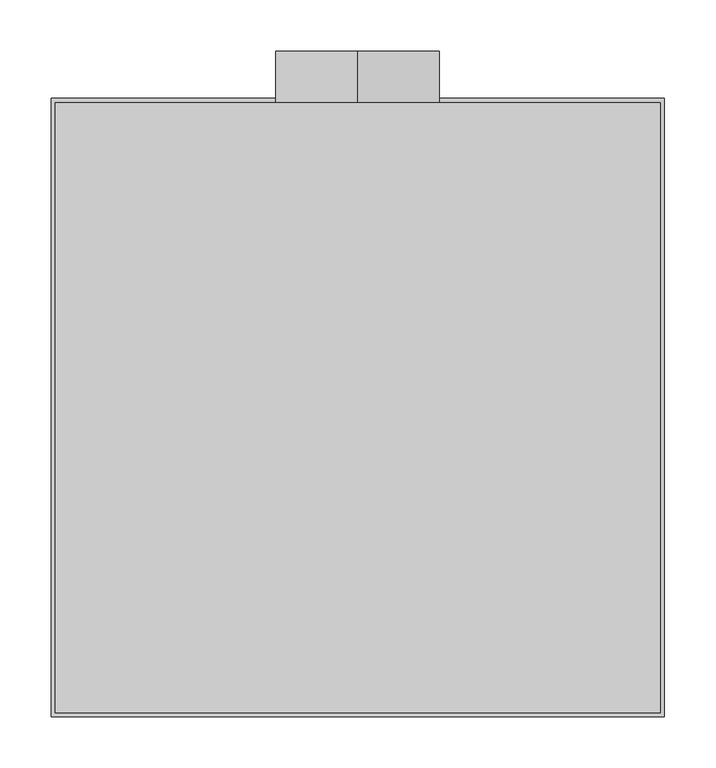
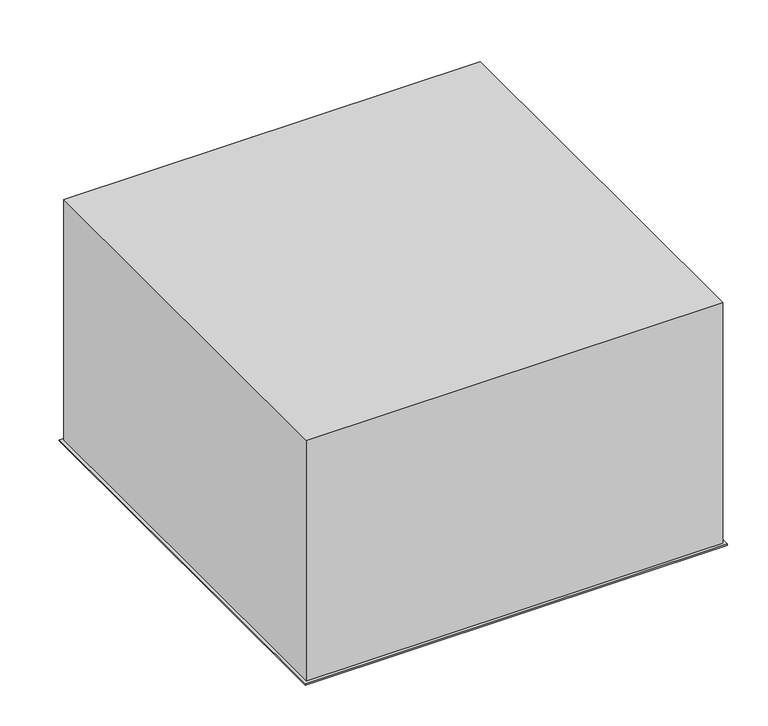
"""IFC4 building model written with IfcOpenShell, lengths in millimetres: air terminal geometry, EOL - plafonnier : EOL-P1-160-600x600."""

import ifcopenshell
import ifcopenshell.guid

model = None  # the IFC model being written
_history = None  # IfcOwnerHistory: only IFC2X3 demands one
_inside = {}  # id of a spatial element -> (the spatial element, [elements in it])
_under = {}  # id of a project, library or spatial element -> (it, [spatial elements below it])
_declared = {}  # id of a project -> (the project, [libraries it declares])
_typed = {}  # id of a type object -> (the type object, [elements of that type])
_made_of = {}  # id of a material, layer set ... -> (it, [elements and type objects made of it])


def new_model(schema):
    """Start an empty IFC model of exactly this schema.

    Asked for "IFC4X3", IfcOpenShell would pick the latest addendum, in which some entities
    have other attributes; the version numbers below select the first issue.
    IFC2X3 requires an IfcOwnerHistory on every rooted entity: one is made here for all.
    """
    global model, _history
    if schema == "IFC4X3":
        model = ifcopenshell.file(schema_version=(4, 3, 0, 0))
    else:
        model = ifcopenshell.file(schema=schema)
    _inside.clear()
    _under.clear()
    _declared.clear()
    _typed.clear()
    _made_of.clear()
    _history = None
    if model.schema == "IFC2X3":
        org = make("IfcOrganization", Name="unknown")
        user = make(
            "IfcPersonAndOrganization",
            ThePerson=make("IfcPerson", FamilyName="unknown"),
            TheOrganization=org,
        )
        app = make(
            "IfcApplication",
            ApplicationDeveloper=org,
            Version="unknown",
            ApplicationFullName="unknown",
            ApplicationIdentifier="unknown",
        )
        _history = make(
            "IfcOwnerHistory",
            OwningUser=user,
            OwningApplication=app,
            ChangeAction="ADDED",
            CreationDate=0,
        )
    return model


def make(cls, **values):
    """One entity of the class cls with the attributes given. An attribute that is None is left unset."""
    return model.create_entity(
        cls, **{name: value for name, value in values.items() if value is not None}
    )


def rooted(cls, **values):
    """An entity with a GlobalId (a new one), such as an element, a storey or a relation."""
    return make(cls, GlobalId=ifcopenshell.guid.new(), OwnerHistory=_history, **values)


def si_unit(unit_type, name, prefix=None):
    """IfcSIUnit, for example si_unit("LENGTHUNIT", "METRE", prefix="MILLI")."""
    return make("IfcSIUnit", UnitType=unit_type, Prefix=prefix, Name=name)


def assignment(units):
    """IfcUnitAssignment: the units of a project."""
    return None if units is None else make("IfcUnitAssignment", Units=units)


def point(xyz):
    """IfcCartesianPoint."""
    return None if xyz is None else make("IfcCartesianPoint", Coordinates=xyz)


def direction(xyz):
    """IfcDirection."""
    return None if xyz is None else make("IfcDirection", DirectionRatios=xyz)


def frame(location, z_axis=None, x_axis=None):
    """IfcAxis2Placement3D, a coordinate frame: its origin and axes. An axis left out is left unset."""
    return make(
        "IfcAxis2Placement3D",
        Location=point(location),
        Axis=direction(z_axis),
        RefDirection=direction(x_axis),
    )


def frame_2d(location, x_axis=None):
    """IfcAxis2Placement2D, a coordinate frame in the plane: its origin and x axis."""
    return make(
        "IfcAxis2Placement2D", Location=point(location), RefDirection=direction(x_axis)
    )


def origin():
    """The frame at (0, 0, 0) with its axes left unset."""
    return frame((0.0, 0.0, 0.0))


def place(relative_to, where):
    """IfcLocalPlacement: puts the frame where relative to a parent placement (None: the world)."""
    return make(
        "IfcLocalPlacement", PlacementRelTo=relative_to, RelativePlacement=where
    )


def context(
    kind, dimensions, precision=None, world=None, true_north=None, identifier=None
):
    """IfcGeometricRepresentationContext, for example the 3D "Model" context."""
    return make(
        "IfcGeometricRepresentationContext",
        ContextIdentifier=identifier,
        ContextType=kind,
        CoordinateSpaceDimension=dimensions,
        Precision=precision,
        WorldCoordinateSystem=world,
        TrueNorth=true_north,
    )


def project(units=None, contexts=None):
    """IfcProject with its units and contexts."""
    return rooted(
        "IfcProject",
        Name="project",
        RepresentationContexts=contexts,
        UnitsInContext=assignment(units),
    )


def spatial(cls, under=None, at=None, **own):
    """A site, building, storey or space (cls), placed at a placement, below another one or the project."""
    s = rooted(cls, ObjectPlacement=at, **own)
    if under is not None:
        _under.setdefault(under.id(), (under, []))[1].append(s)
    return s


def polyline(points):
    """IfcPolyline through the points."""
    return make("IfcPolyline", Points=[point(p) for p in points])


def circle_curve(where, radius):
    """IfcCircle in the frame where."""
    return make("IfcCircle", Position=where, Radius=radius)


def trimmed(basis, trim1, trim2, sense, master):
    """IfcTrimmedCurve: the piece of a basis curve between two trims."""
    return make(
        "IfcTrimmedCurve",
        BasisCurve=basis,
        Trim1=trim1,
        Trim2=trim2,
        SenseAgreement=sense,
        MasterRepresentation=master,
    )


def segment(curve, same_sense, transition):
    """IfcCompositeCurveSegment."""
    return make(
        "IfcCompositeCurveSegment",
        Transition=transition,
        SameSense=same_sense,
        ParentCurve=curve,
    )


def composite_curve(segments, self_intersect=None):
    """IfcCompositeCurve: segments joined end to end."""
    return make("IfcCompositeCurve", Segments=segments, SelfIntersect=self_intersect)


def outline(outer, holes=None, kind="AREA"):
    """IfcArbitraryClosedProfileDef: a profile drawn as a closed curve; with holes, ...WithVoids."""
    if holes is None:
        return make("IfcArbitraryClosedProfileDef", ProfileType=kind, OuterCurve=outer)
    return make(
        "IfcArbitraryProfileDefWithVoids",
        ProfileType=kind,
        OuterCurve=outer,
        InnerCurves=holes,
    )


def extrude(swept, where, along, depth):
    """IfcExtrudedAreaSolid: the profile swept, set in the frame where, extruded along a direction by depth."""
    return make(
        "IfcExtrudedAreaSolid",
        SweptArea=swept,
        Position=where,
        ExtrudedDirection=direction(along),
        Depth=depth,
    )


def shape(context_of_items, identifier, shape_type, items):
    """IfcShapeRepresentation: the items that make up one representation, for example the "Body"."""
    return make(
        "IfcShapeRepresentation",
        ContextOfItems=context_of_items,
        RepresentationIdentifier=identifier,
        RepresentationType=shape_type,
        Items=items,
    )


def source(mapping_origin, context_of_items, identifier, shape_type, items):
    """IfcRepresentationMap: a shape defined once, which mapped items show again and again."""
    return make(
        "IfcRepresentationMap",
        MappingOrigin=mapping_origin,
        MappedRepresentation=shape(context_of_items, identifier, shape_type, items),
    )


def transform(
    local_origin,
    x_axis=None,
    y_axis=None,
    z_axis=None,
    scale=None,
    scale2=None,
    scale3=None,
    uniform=True,
):
    """IfcCartesianTransformationOperator3D, or its non-uniform kind. x_axis, y_axis, z_axis: its Axis1, 2, 3."""
    if uniform:
        return make(
            "IfcCartesianTransformationOperator3D",
            Axis1=direction(x_axis),
            Axis2=direction(y_axis),
            LocalOrigin=point(local_origin),
            Scale=scale,
            Axis3=direction(z_axis),
        )
    return make(
        "IfcCartesianTransformationOperator3DnonUniform",
        Axis1=direction(x_axis),
        Axis2=direction(y_axis),
        LocalOrigin=point(local_origin),
        Scale=scale,
        Axis3=direction(z_axis),
        Scale2=scale2,
        Scale3=scale3,
    )


def mapped(mapping_source, mapping_target):
    """IfcMappedItem: shows the shape of a source again, moved by a transform."""
    return make(
        "IfcMappedItem", MappingSource=mapping_source, MappingTarget=mapping_target
    )


def made_of(thing, what):
    """Note that an element or type object is made of a material, layer set ...; save() writes the relation."""
    if what is not None:
        _made_of.setdefault(what.id(), (what, []))[1].append(thing)
    return thing


def element(
    cls,
    number,
    at=None,
    inside=None,
    cuts=None,
    type_object=None,
    material=None,
    context=None,
    identifier="Body",
    shape_type=None,
    held_by="IfcProductDefinitionShape",
    body=None,
    shapes=None,
    **own,
):
    """One element of the class cls, such as IfcWall. Its Tag is "e" and its number.

    at: its placement. inside: the storey or other place that contains it. cuts: it is an
    opening in that element (IfcRelVoidsElement). A single representation is given by context,
    identifier, shape_type and body (its items); several are given by shapes. held_by: the class
    of the entity that holds the representations. save() writes the other relations.
    """
    e = rooted(cls, Tag="e%d" % number, ObjectPlacement=at, **own)
    if body is not None:
        shapes = [shape(context, identifier, shape_type, body)]
    if shapes is not None:
        e.Representation = make(held_by, Representations=shapes)
    if inside is not None:
        _inside.setdefault(inside.id(), (inside, []))[1].append(e)
    if cuts is not None:
        rooted(
            "IfcRelVoidsElement", RelatingBuildingElement=cuts, RelatedOpeningElement=e
        )
    if type_object is not None:
        _typed.setdefault(type_object.id(), (type_object, []))[1].append(e)
    return made_of(e, material)


def aggregate(whole, parts):
    """IfcRelAggregates: a whole, such as a stair, and the parts it consists of."""
    return rooted("IfcRelAggregates", RelatingObject=whole, RelatedObjects=parts)


def save(model, path):
    """Write the relations noted so far, then the file.

    IfcRelAggregates (storeys below a building ...), IfcRelContainedInSpatialStructure (elements
    in a storey), IfcRelDefinesByType, IfcRelAssociatesMaterial and IfcRelDeclares: one each for
    every whole, place, type object, material and project.
    """
    for whole, parts in _under.values():
        aggregate(whole, parts)
    for where, things in _inside.values():
        rooted(
            "IfcRelContainedInSpatialStructure",
            RelatedElements=things,
            RelatingStructure=where,
        )
    for kind, things in _typed.values():
        rooted("IfcRelDefinesByType", RelatedObjects=things, RelatingType=kind)
    for what, things in _made_of.values():
        rooted("IfcRelAssociatesMaterial", RelatedObjects=things, RelatingMaterial=what)
    for by, libraries in _declared.values():
        rooted("IfcRelDeclares", RelatingContext=by, RelatedDefinitions=libraries)
    model.write(path)


def plane_surface(at):
    """IfcPlane: the flat surface through the origin of the frame at, square to its z axis."""
    return make("IfcPlane", Position=at)


def revolved_surface(curve, axis_point, axis_direction):
    """IfcSurfaceOfRevolution: the curve turned about the line through axis_point along axis_direction."""
    return make(
        "IfcSurfaceOfRevolution",
        SweptCurve=make("IfcArbitraryOpenProfileDef", ProfileType="CURVE", Curve=curve),
        AxisPosition=make("IfcAxis1Placement", Location=point(axis_point), Axis=direction(axis_direction)),
    )


def advanced_brep(points, edges, surfaces, faces):
    """IfcAdvancedBrep: a solid bounded by faces that lie on surfaces and meet in shared edges.

    An edge is (start, end): straight between two places in points (the first is 0);
    or (start, end, curve); or (start, end, curve, False) where it runs against its curve.
    A face is (place in surfaces, loops), or (place, loops, False) where it looks against
    its surface's normal. A loop lists edges by number (the first is 1), with a minus sign
    where the edge is run from its end to its start. The first loop is the outer one.
    """
    corners = [point(p) for p in points]
    vertices = [make("IfcVertexPoint", VertexGeometry=c) for c in corners]
    made = []
    for start, end, *more in edges:
        made.append(
            make(
                "IfcEdgeCurve",
                EdgeStart=vertices[start],
                EdgeEnd=vertices[end],
                EdgeGeometry=more[0] if more else make("IfcPolyline", Points=[corners[start], corners[end]]),
                SameSense=more[1] if len(more) > 1 else True,
            )
        )
    hull = []
    for where, loops, *sense in faces:
        bounds = []
        for j, loop in enumerate(loops):
            ring = [make("IfcOrientedEdge", EdgeElement=made[abs(k) - 1], Orientation=k > 0) for k in loop]
            bounds.append(
                make(
                    "IfcFaceOuterBound" if j == 0 else "IfcFaceBound",
                    Bound=make("IfcEdgeLoop", EdgeList=ring),
                    Orientation=True,
                )
            )
        hull.append(make("IfcAdvancedFace", Bounds=bounds, FaceSurface=surfaces[where], SameSense=sense[0] if sense else True))
    return make("IfcAdvancedBrep", Outer=make("IfcClosedShell", CfsFaces=hull))


def air_terminal_bc984ca1(model_context):
    return source(origin(), model_context, "Body", "SolidModel", [
        extrude(outline(composite_curve([segment(polyline([(546.8125856, 1.0), (546.8125856, 2.0025269)]), True, "CONTINUOUS"), segment(trimmed(circle_curve(frame_2d((544.7125856, 31.0266548)), 29.1), [point((546.8125856, 2.0025269))], [point((573.5, 26.77286))], True, "CARTESIAN"), True, "CONTINUOUS"), segment(polyline([(573.5, 26.77286), (573.5, 35.0), (574.5, 35.0), (574.5, 26.7)]), True, "CONTINUOUS"), segment(trimmed(circle_curve(frame_2d((544.7125856, 31.0266548)), 30.1), [point((574.5, 26.7))], [point((546.8125856, 1.0))], False, "CARTESIAN"), True, "CONTINUOUS")], self_intersect=False)), frame((-286.3125856, 0.0, 0.0), z_axis=(1.0, 0.0, 0.0), x_axis=(0.0, 1.0, 0.0)), (0.0, 0.0, 1.0), 572.6251712),
        extrude(outline(composite_curve([segment(polyline([(519.8125856, 1.0), (519.8125856, 2.0025269)]), True, "CONTINUOUS"), segment(trimmed(circle_curve(frame_2d((517.7125856, 31.0266548)), 29.1), [point((519.8125856, 2.0025269))], [point((546.5, 26.77286))], True, "CARTESIAN"), True, "CONTINUOUS"), segment(polyline([(546.5, 26.77286), (546.5, 35.0), (547.5, 35.0), (547.5, 26.7)]), True, "CONTINUOUS"), segment(trimmed(circle_curve(frame_2d((517.7125856, 31.0266548)), 30.1), [point((547.5, 26.7))], [point((519.8125856, 1.0))], False, "CARTESIAN"), True, "CONTINUOUS")], self_intersect=False)), frame((-286.3125856, 0.0, 0.0), z_axis=(1.0, 0.0, 0.0), x_axis=(0.0, 1.0, 0.0)), (0.0, 0.0, 1.0), 572.6251712),
        extrude(outline(composite_curve([segment(polyline([(492.8125856, 1.0), (492.8125856, 2.0025269)]), True, "CONTINUOUS"), segment(trimmed(circle_curve(frame_2d((490.7125856, 31.0266548)), 29.1), [point((492.8125856, 2.0025269))], [point((519.5, 26.77286))], True, "CARTESIAN"), True, "CONTINUOUS"), segment(polyline([(519.5, 26.77286), (519.5, 35.0), (520.5, 35.0), (520.5, 26.7)]), True, "CONTINUOUS"), segment(trimmed(circle_curve(frame_2d((490.7125856, 31.0266548)), 30.1), [point((520.5, 26.7))], [point((492.8125856, 1.0))], False, "CARTESIAN"), True, "CONTINUOUS")], self_intersect=False)), frame((-286.3125856, 0.0, 0.0), z_axis=(1.0, 0.0, 0.0), x_axis=(0.0, 1.0, 0.0)), (0.0, 0.0, 1.0), 572.6251712),
        extrude(outline(composite_curve([segment(polyline([(465.8125856, 1.0), (465.8125856, 2.0025269)]), True, "CONTINUOUS"), segment(trimmed(circle_curve(frame_2d((463.7125856, 31.0266548)), 29.1), [point((465.8125856, 2.0025269))], [point((492.5, 26.77286))], True, "CARTESIAN"), True, "CONTINUOUS"), segment(polyline([(492.5, 26.77286), (492.5, 35.0), (493.5, 35.0), (493.5, 26.7)]), True, "CONTINUOUS"), segment(trimmed(circle_curve(frame_2d((463.7125856, 31.0266548)), 30.1), [point((493.5, 26.7))], [point((465.8125856, 1.0))], False, "CARTESIAN"), True, "CONTINUOUS")], self_intersect=False)), frame((-286.3125856, 0.0, 0.0), z_axis=(1.0, 0.0, 0.0), x_axis=(0.0, 1.0, 0.0)), (0.0, 0.0, 1.0), 572.6251712),
        extrude(outline(composite_curve([segment(polyline([(438.8125856, 1.0), (438.8125856, 2.0025269)]), True, "CONTINUOUS"), segment(trimmed(circle_curve(frame_2d((436.7125856, 31.0266548)), 29.1), [point((438.8125856, 2.0025269))], [point((465.5, 26.77286))], True, "CARTESIAN"), True, "CONTINUOUS"), segment(polyline([(465.5, 26.77286), (465.5, 35.0), (466.5, 35.0), (466.5, 26.7)]), True, "CONTINUOUS"), segment(trimmed(circle_curve(frame_2d((436.7125856, 31.0266548)), 30.1), [point((466.5, 26.7))], [point((438.8125856, 1.0))], False, "CARTESIAN"), True, "CONTINUOUS")], self_intersect=False)), frame((-286.3125856, 0.0, 0.0), z_axis=(1.0, 0.0, 0.0), x_axis=(0.0, 1.0, 0.0)), (0.0, 0.0, 1.0), 572.6251712),
        extrude(outline(composite_curve([segment(polyline([(411.8125856, 1.0), (411.8125856, 2.0025269)]), True, "CONTINUOUS"), segment(trimmed(circle_curve(frame_2d((409.7125856, 31.0266548)), 29.1), [point((411.8125856, 2.0025269))], [point((438.5, 26.77286))], True, "CARTESIAN"), True, "CONTINUOUS"), segment(polyline([(438.5, 26.77286), (438.5, 35.0), (439.5, 35.0), (439.5, 26.7)]), True, "CONTINUOUS"), segment(trimmed(circle_curve(frame_2d((409.7125856, 31.0266548)), 30.1), [point((439.5, 26.7))], [point((411.8125856, 1.0))], False, "CARTESIAN"), True, "CONTINUOUS")], self_intersect=False)), frame((-286.3125856, 0.0, 0.0), z_axis=(1.0, 0.0, 0.0), x_axis=(0.0, 1.0, 0.0)), (0.0, 0.0, 1.0), 572.6251712),
        extrude(outline(composite_curve([segment(polyline([(384.8125856, 1.0), (384.8125856, 2.0025269)]), True, "CONTINUOUS"), segment(trimmed(circle_curve(frame_2d((382.7125856, 31.0266548)), 29.1), [point((384.8125856, 2.0025269))], [point((411.5, 26.77286))], True, "CARTESIAN"), True, "CONTINUOUS"), segment(polyline([(411.5, 26.77286), (411.5, 35.0), (412.5, 35.0), (412.5, 26.7)]), True, "CONTINUOUS"), segment(trimmed(circle_curve(frame_2d((382.7125856, 31.0266548)), 30.1), [point((412.5, 26.7))], [point((384.8125856, 1.0))], False, "CARTESIAN"), True, "CONTINUOUS")], self_intersect=False)), frame((-286.3125856, 0.0, 0.0), z_axis=(1.0, 0.0, 0.0), x_axis=(0.0, 1.0, 0.0)), (0.0, 0.0, 1.0), 572.6251712),
        extrude(outline(composite_curve([segment(polyline([(357.8125856, 1.0), (357.8125856, 2.0025269)]), True, "CONTINUOUS"), segment(trimmed(circle_curve(frame_2d((355.7125856, 31.0266548)), 29.1), [point((357.8125856, 2.0025269))], [point((384.5, 26.77286))], True, "CARTESIAN"), True, "CONTINUOUS"), segment(polyline([(384.5, 26.77286), (384.5, 35.0), (385.5, 35.0), (385.5, 26.7)]), True, "CONTINUOUS"), segment(trimmed(circle_curve(frame_2d((355.7125856, 31.0266548)), 30.1), [point((385.5, 26.7))], [point((357.8125856, 1.0))], False, "CARTESIAN"), True, "CONTINUOUS")], self_intersect=False)), frame((-286.3125856, 0.0, 0.0), z_axis=(1.0, 0.0, 0.0), x_axis=(0.0, 1.0, 0.0)), (0.0, 0.0, 1.0), 572.6251712),
        extrude(outline(composite_curve([segment(polyline([(330.8125856, 1.0), (330.8125856, 2.0025269)]), True, "CONTINUOUS"), segment(trimmed(circle_curve(frame_2d((328.7125856, 31.0266548)), 29.1), [point((330.8125856, 2.0025269))], [point((357.5, 26.77286))], True, "CARTESIAN"), True, "CONTINUOUS"), segment(polyline([(357.5, 26.77286), (357.5, 35.0), (358.5, 35.0), (358.5, 26.7)]), True, "CONTINUOUS"), segment(trimmed(circle_curve(frame_2d((328.7125856, 31.0266548)), 30.1), [point((358.5, 26.7))], [point((330.8125856, 1.0))], False, "CARTESIAN"), True, "CONTINUOUS")], self_intersect=False)), frame((-286.3125856, 0.0, 0.0), z_axis=(1.0, 0.0, 0.0), x_axis=(0.0, 1.0, 0.0)), (0.0, 0.0, 1.0), 572.6251712),
        extrude(outline(composite_curve([segment(polyline([(303.8125856, 1.0), (303.8125856, 2.0025269)]), True, "CONTINUOUS"), segment(trimmed(circle_curve(frame_2d((301.7125856, 31.0266548)), 29.1), [point((303.8125856, 2.0025269))], [point((330.5, 26.77286))], True, "CARTESIAN"), True, "CONTINUOUS"), segment(polyline([(330.5, 26.77286), (330.5, 35.0), (331.5, 35.0), (331.5, 26.7)]), True, "CONTINUOUS"), segment(trimmed(circle_curve(frame_2d((301.7125856, 31.0266548)), 30.1), [point((331.5, 26.7))], [point((303.8125856, 1.0))], False, "CARTESIAN"), True, "CONTINUOUS")], self_intersect=False)), frame((-286.3125856, 0.0, 0.0), z_axis=(1.0, 0.0, 0.0), x_axis=(0.0, 1.0, 0.0)), (0.0, 0.0, 1.0), 572.6251712),
        extrude(outline(composite_curve([segment(polyline([(276.8125856, 1.0), (276.8125856, 2.0025269)]), True, "CONTINUOUS"), segment(trimmed(circle_curve(frame_2d((274.7125856, 31.0266548)), 29.1), [point((276.8125856, 2.0025269))], [point((303.5, 26.77286))], True, "CARTESIAN"), True, "CONTINUOUS"), segment(polyline([(303.5, 26.77286), (303.5, 35.0), (304.5, 35.0), (304.5, 26.7)]), True, "CONTINUOUS"), segment(trimmed(circle_curve(frame_2d((274.7125856, 31.0266548)), 30.1), [point((304.5, 26.7))], [point((276.8125856, 1.0))], False, "CARTESIAN"), True, "CONTINUOUS")], self_intersect=False)), frame((-286.3125856, 0.0, 0.0), z_axis=(1.0, 0.0, 0.0), x_axis=(0.0, 1.0, 0.0)), (0.0, 0.0, 1.0), 572.6251712),
        extrude(outline(composite_curve([segment(polyline([(249.8125856, 1.0), (249.8125856, 2.0025269)]), True, "CONTINUOUS"), segment(trimmed(circle_curve(frame_2d((247.7125856, 31.0266548)), 29.1), [point((249.8125856, 2.0025269))], [point((276.5, 26.77286))], True, "CARTESIAN"), True, "CONTINUOUS"), segment(polyline([(276.5, 26.77286), (276.5, 35.0), (277.5, 35.0), (277.5, 26.7)]), True, "CONTINUOUS"), segment(trimmed(circle_curve(frame_2d((247.7125856, 31.0266548)), 30.1), [point((277.5, 26.7))], [point((249.8125856, 1.0))], False, "CARTESIAN"), True, "CONTINUOUS")], self_intersect=False)), frame((-286.3125856, 0.0, 0.0), z_axis=(1.0, 0.0, 0.0), x_axis=(0.0, 1.0, 0.0)), (0.0, 0.0, 1.0), 572.6251712),
        extrude(outline(composite_curve([segment(polyline([(222.8125856, 1.0), (222.8125856, 2.0025269)]), True, "CONTINUOUS"), segment(trimmed(circle_curve(frame_2d((220.7125856, 31.0266548)), 29.1), [point((222.8125856, 2.0025269))], [point((249.5, 26.77286))], True, "CARTESIAN"), True, "CONTINUOUS"), segment(polyline([(249.5, 26.77286), (249.5, 35.0), (250.5, 35.0), (250.5, 26.7)]), True, "CONTINUOUS"), segment(trimmed(circle_curve(frame_2d((220.7125856, 31.0266548)), 30.1), [point((250.5, 26.7))], [point((222.8125856, 1.0))], False, "CARTESIAN"), True, "CONTINUOUS")], self_intersect=False)), frame((-286.3125856, 0.0, 0.0), z_axis=(1.0, 0.0, 0.0), x_axis=(0.0, 1.0, 0.0)), (0.0, 0.0, 1.0), 572.6251712),
        extrude(outline(composite_curve([segment(polyline([(195.8125856, 1.0), (195.8125856, 2.0025269)]), True, "CONTINUOUS"), segment(trimmed(circle_curve(frame_2d((193.7125856, 31.0266548)), 29.1), [point((195.8125856, 2.0025269))], [point((222.5, 26.77286))], True, "CARTESIAN"), True, "CONTINUOUS"), segment(polyline([(222.5, 26.77286), (222.5, 35.0), (223.5, 35.0), (223.5, 26.7)]), True, "CONTINUOUS"), segment(trimmed(circle_curve(frame_2d((193.7125856, 31.0266548)), 30.1), [point((223.5, 26.7))], [point((195.8125856, 1.0))], False, "CARTESIAN"), True, "CONTINUOUS")], self_intersect=False)), frame((-286.3125856, 0.0, 0.0), z_axis=(1.0, 0.0, 0.0), x_axis=(0.0, 1.0, 0.0)), (0.0, 0.0, 1.0), 572.6251712),
        extrude(outline(composite_curve([segment(polyline([(168.8125856, 1.0), (168.8125856, 2.0025269)]), True, "CONTINUOUS"), segment(trimmed(circle_curve(frame_2d((166.7125856, 31.0266548)), 29.1), [point((168.8125856, 2.0025269))], [point((195.5, 26.77286))], True, "CARTESIAN"), True, "CONTINUOUS"), segment(polyline([(195.5, 26.77286), (195.5, 35.0), (196.5, 35.0), (196.5, 26.7)]), True, "CONTINUOUS"), segment(trimmed(circle_curve(frame_2d((166.7125856, 31.0266548)), 30.1), [point((196.5, 26.7))], [point((168.8125856, 1.0))], False, "CARTESIAN"), True, "CONTINUOUS")], self_intersect=False)), frame((-286.3125856, 0.0, 0.0), z_axis=(1.0, 0.0, 0.0), x_axis=(0.0, 1.0, 0.0)), (0.0, 0.0, 1.0), 572.6251712),
        extrude(outline(composite_curve([segment(polyline([(141.8125856, 1.0), (141.8125856, 2.0025269)]), True, "CONTINUOUS"), segment(trimmed(circle_curve(frame_2d((139.7125856, 31.0266548)), 29.1), [point((141.8125856, 2.0025269))], [point((168.5, 26.77286))], True, "CARTESIAN"), True, "CONTINUOUS"), segment(polyline([(168.5, 26.77286), (168.5, 35.0), (169.5, 35.0), (169.5, 26.7)]), True, "CONTINUOUS"), segment(trimmed(circle_curve(frame_2d((139.7125856, 31.0266548)), 30.1), [point((169.5, 26.7))], [point((141.8125856, 1.0))], False, "CARTESIAN"), True, "CONTINUOUS")], self_intersect=False)), frame((-286.3125856, 0.0, 0.0), z_axis=(1.0, 0.0, 0.0), x_axis=(0.0, 1.0, 0.0)), (0.0, 0.0, 1.0), 572.6251712),
        extrude(outline(composite_curve([segment(polyline([(114.8125856, 1.0), (114.8125856, 2.0025269)]), True, "CONTINUOUS"), segment(trimmed(circle_curve(frame_2d((112.7125856, 31.0266548)), 29.1), [point((114.8125856, 2.0025269))], [point((141.5, 26.77286))], True, "CARTESIAN"), True, "CONTINUOUS"), segment(polyline([(141.5, 26.77286), (141.5, 35.0), (142.5, 35.0), (142.5, 26.7)]), True, "CONTINUOUS"), segment(trimmed(circle_curve(frame_2d((112.7125856, 31.0266548)), 30.1), [point((142.5, 26.7))], [point((114.8125856, 1.0))], False, "CARTESIAN"), True, "CONTINUOUS")], self_intersect=False)), frame((-286.3125856, 0.0, 0.0), z_axis=(1.0, 0.0, 0.0), x_axis=(0.0, 1.0, 0.0)), (0.0, 0.0, 1.0), 572.6251712),
        extrude(outline(composite_curve([segment(polyline([(87.8125856, 1.0), (87.8125856, 2.0025269)]), True, "CONTINUOUS"), segment(trimmed(circle_curve(frame_2d((85.7125856, 31.0266548)), 29.1), [point((87.8125856, 2.0025269))], [point((114.5, 26.77286))], True, "CARTESIAN"), True, "CONTINUOUS"), segment(polyline([(114.5, 26.77286), (114.5, 35.0), (115.5, 35.0), (115.5, 26.7)]), True, "CONTINUOUS"), segment(trimmed(circle_curve(frame_2d((85.7125856, 31.0266548)), 30.1), [point((115.5, 26.7))], [point((87.8125856, 1.0))], False, "CARTESIAN"), True, "CONTINUOUS")], self_intersect=False)), frame((-286.3125856, 0.0, 0.0), z_axis=(1.0, 0.0, 0.0), x_axis=(0.0, 1.0, 0.0)), (0.0, 0.0, 1.0), 572.6251712),
        extrude(outline(composite_curve([segment(polyline([(60.8125856, 1.0), (60.8125856, 2.0025269)]), True, "CONTINUOUS"), segment(trimmed(circle_curve(frame_2d((58.7125856, 31.0266548)), 29.1), [point((60.8125856, 2.0025269))], [point((87.5, 26.77286))], True, "CARTESIAN"), True, "CONTINUOUS"), segment(polyline([(87.5, 26.77286), (87.5, 35.0), (88.5, 35.0), (88.5, 26.7)]), True, "CONTINUOUS"), segment(trimmed(circle_curve(frame_2d((58.7125856, 31.0266548)), 30.1), [point((88.5, 26.7))], [point((60.8125856, 1.0))], False, "CARTESIAN"), True, "CONTINUOUS")], self_intersect=False)), frame((-286.3125856, 0.0, 0.0), z_axis=(1.0, 0.0, 0.0), x_axis=(0.0, 1.0, 0.0)), (0.0, 0.0, 1.0), 572.6251712),
        extrude(outline(composite_curve([segment(polyline([(33.8125856, 1.0), (33.8125856, 2.0025269)]), True, "CONTINUOUS"), segment(trimmed(circle_curve(frame_2d((31.7125856, 31.0266548)), 29.1), [point((33.8125856, 2.0025269))], [point((60.5, 26.77286))], True, "CARTESIAN"), True, "CONTINUOUS"), segment(polyline([(60.5, 26.77286), (60.5, 35.0), (61.5, 35.0), (61.5, 26.7)]), True, "CONTINUOUS"), segment(trimmed(circle_curve(frame_2d((31.7125856, 31.0266548)), 30.1), [point((61.5, 26.7))], [point((33.8125856, 1.0))], False, "CARTESIAN"), True, "CONTINUOUS")], self_intersect=False)), frame((-286.3125856, 0.0, 0.0), z_axis=(1.0, 0.0, 0.0), x_axis=(0.0, 1.0, 0.0)), (0.0, 0.0, 1.0), 572.6251712),
        extrude(outline(composite_curve([segment(polyline([(6.8125856, 1.0), (6.8125856, 2.0025269)]), True, "CONTINUOUS"), segment(trimmed(circle_curve(frame_2d((4.7125856, 31.0266548)), 29.1), [point((6.8125856, 2.0025269))], [point((33.5, 26.77286))], True, "CARTESIAN"), True, "CONTINUOUS"), segment(polyline([(33.5, 26.77286), (33.5, 35.0), (34.5, 35.0), (34.5, 26.7)]), True, "CONTINUOUS"), segment(trimmed(circle_curve(frame_2d((4.7125856, 31.0266548)), 30.1), [point((34.5, 26.7))], [point((6.8125856, 1.0))], False, "CARTESIAN"), True, "CONTINUOUS")], self_intersect=False)), frame((-286.3125856, 0.0, 0.0), z_axis=(1.0, 0.0, 0.0), x_axis=(0.0, 1.0, 0.0)), (0.0, 0.0, 1.0), 572.6251712),
        extrude(outline(polyline([(299.0, 594.0), (299.0, -9.0), (-299.0, -9.0), (-299.0, 594.0), (299.0, 594.0)]), holes=[polyline([(290.0, 585.0), (-290.0, 585.0), (-290.0, 0.0), (290.0, 0.0), (290.0, 585.0)])]), frame((0.0, 0.0, -2.0), z_axis=(0.0, 0.0, 1.0), x_axis=(1.0, 0.0, 0.0)), (0.0, 0.0, 1.0), 2.0),
        extrude(outline(composite_curve([segment(trimmed(circle_curve(frame_2d((241.0, 0.0)), 80.0), [point((161.0, 0.0))], [point((321.0, 0.0))], False, "CARTESIAN"), True, "CONTINUOUS"), segment(trimmed(circle_curve(frame_2d((241.0, 0.0)), 80.0), [point((321.0, 0.0))], [point((161.0, 0.0))], False, "CARTESIAN"), True, "CONTINUOUS")], self_intersect=False), holes=[composite_curve([segment(trimmed(circle_curve(frame_2d((241.0, 0.0)), 79.0), [point((241.0, 79.0))], [point((241.0, -79.0))], True, "CARTESIAN"), True, "CONTINUOUS"), segment(trimmed(circle_curve(frame_2d((241.0, 0.0)), 79.0), [point((241.0, -79.0))], [point((241.0, 79.0))], True, "CARTESIAN"), True, "CONTINUOUS")], self_intersect=False)]), frame((0.0, 590.0, 0.0), z_axis=(0.0, 1.0, 0.0), x_axis=(0.0, 0.0, 1.0)), (0.0, 0.0, 1.0), 50.0),
        advanced_brep(
        [(295.0, 590.0, 361.0), (-295.0, 590.0, 361.0), (-295.0, -5.0, 361.0), (295.0, -5.0, 361.0), (295.0, 590.0, 0.0), (295.0, -5.0, 0.0), (-295.0, -5.0, 0.0), (-295.0, 590.0, 0.0), (290.0, 585.0, 0.0), (-290.0, 585.0, 0.0), (-290.0, 0.0, 0.0), (290.0, 0.0, 0.0), (-79.0, 590.0, 241.0), (79.0, 590.0, 241.0), (290.0, 585.0, 356.0), (290.0, 0.0, 356.0), (-290.0, 0.0, 356.0), (-290.0, 585.0, 356.0), (79.0, 585.0, 241.0), (-79.0, 585.0, 241.0)],
        [
            (0, 1),
            (1, 2),
            (2, 3),
            (3, 0),
            (4, 5),
            (5, 6),
            (6, 7),
            (7, 4),
            (8, 9),
            (9, 10),
            (10, 11),
            (11, 8),
            (0, 4),
            (7, 1),
            (12, 13, circle_curve(frame((0.0, 590.0, 241.0), z_axis=(0.0, -1.0, 0.0), x_axis=(1.0, 0.0, 0.0)), 79.0)),
            (13, 12, circle_curve(frame((0.0, 590.0, 241.0), z_axis=(0.0, -1.0, 0.0), x_axis=(1.0, 0.0, 0.0)), 79.0)),
            (6, 2),
            (5, 3),
            (14, 15),
            (15, 16),
            (16, 17),
            (17, 14),
            (17, 9),
            (8, 14),
            (18, 19, circle_curve(frame((0.0, 585.0, 241.0), z_axis=(0.0, 1.0, 0.0), x_axis=(1.0, 0.0, 0.0)), 79.0)),
            (19, 18, circle_curve(frame((0.0, 585.0, 241.0), z_axis=(0.0, 1.0, 0.0), x_axis=(1.0, 0.0, 0.0)), 79.0)),
            (16, 10),
            (15, 11),
            (12, 19),
            (18, 13),
        ],
        [
            plane_surface(frame((-295.0, 590.0, 361.0), z_axis=(0.0, 0.0, 1.0), x_axis=(-1.0, 0.0, 0.0))),
            plane_surface(frame((-295.0, 590.0, 0.0), z_axis=(0.0, 0.0, -1.0), x_axis=(1.0, 0.0, 0.0))),
            plane_surface(frame((295.0, 590.0, 361.0), z_axis=(0.0, 1.0, 0.0), x_axis=(0.0, 0.0, -1.0))),
            plane_surface(frame((-295.0, 590.0, 361.0), z_axis=(-1.0, 0.0, 0.0), x_axis=(0.0, 0.0, -1.0))),
            plane_surface(frame((-295.0, -5.0, 361.0), z_axis=(0.0, -1.0, 0.0), x_axis=(0.0, 0.0, -1.0))),
            plane_surface(frame((295.0, -5.0, 361.0), z_axis=(1.0, 0.0, 0.0), x_axis=(0.0, 0.0, -1.0))),
            plane_surface(frame((-290.0, 585.0, 356.0), z_axis=(0.0, 0.0, -1.0), x_axis=(-1.0, 0.0, 0.0))),
            plane_surface(frame((290.0, 585.0, 356.0), z_axis=(0.0, -1.0, 0.0), x_axis=(0.0, 0.0, -1.0))),
            plane_surface(frame((-290.0, 585.0, 356.0), z_axis=(1.0, 0.0, 0.0), x_axis=(0.0, 0.0, -1.0))),
            plane_surface(frame((-290.0, 0.0, 356.0), z_axis=(0.0, 1.0, 0.0), x_axis=(0.0, 0.0, -1.0))),
            plane_surface(frame((290.0, 0.0, 356.0), z_axis=(-1.0, 0.0, 0.0), x_axis=(0.0, 0.0, -1.0))),
            revolved_surface(polyline([(79.0, 585.0, 241.0), (79.0, 590.0, 241.0)]), (0.0, 640.0, 241.0), (0.0, -1.0, 0.0)),
        ],
        [
            (0, [[1, 2, 3, 4]]),
            (1, [[5, 6, 7, 8], [9, 10, 11, 12]]),
            (2, [[-1, 13, -8, 14], [15, 16]]),
            (3, [[-2, -14, -7, 17]]),
            (4, [[-3, -17, -6, 18]]),
            (5, [[-4, -18, -5, -13]]),
            (6, [[19, 20, 21, 22]]),
            (7, [[-22, 23, -9, 24], [25, 26]]),
            (8, [[-21, 27, -10, -23]]),
            (9, [[-20, 28, -11, -27]]),
            (10, [[-19, -24, -12, -28]]),
            (11, [[29, -25, 30, -15]]),
            (11, [[-29, -16, -30, -26]]),
        ],
    ),
    ])


if __name__ == "__main__":
    model = new_model("IFC4")
    model_context = context("Model", 3, world=origin())
    ifc_project = project(units=[si_unit("LENGTHUNIT", "METRE", prefix="MILLI")], contexts=[model_context])
    site = spatial("IfcSite", under=ifc_project)
    building = spatial("IfcBuilding", under=site)
    placement = place(None, origin())
    air_terminal_shape = air_terminal_bc984ca1(model_context)
    element("IfcAirTerminal", 1, ObjectType="EOL - plafonnier : EOL-P1-160-600x600", at=placement, inside=building, context=model_context, shape_type="MappedRepresentation", body=[
        mapped(air_terminal_shape, transform((0.0, 0.0, 0.0), x_axis=(1.0, 0.0, 0.0), y_axis=(0.0, 1.0, 0.0), z_axis=(0.0, 0.0, 1.0))),
    ])
    save(model, "model.ifc")
